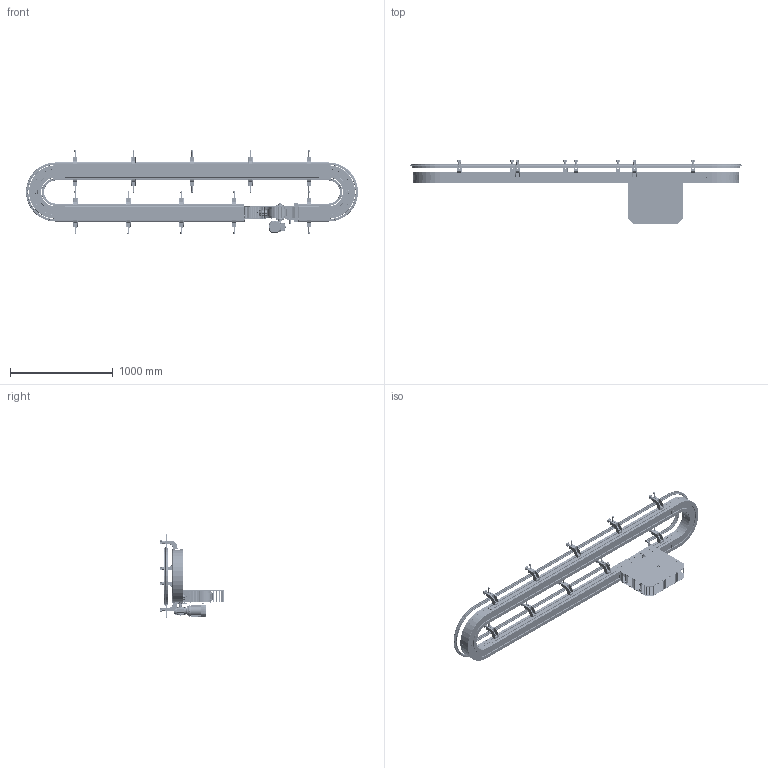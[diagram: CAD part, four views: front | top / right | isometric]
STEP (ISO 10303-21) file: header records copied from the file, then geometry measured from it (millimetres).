
FILE_DESCRIPTION (( 'STEP AP203' ), '1' );
FILE_NAME ('NASTRO_CATENA.step', '2026-06-03T18:55:09', ( 'Utente Windows' ), ( '' ), 'SwSTEP 2.0', 'SolidWorks 2024', '' );
FILE_SCHEMA (( 'CONFIG_CONTROL_DESIGN' ));
Length unit declared in the file: millimetre
Products named in the file (57): 2000.001.011; 084.302.000 DADI ALUSIC 9x9_084.302.015; 2000.450.601_Default<A macchina>; 2000.325.608; 2000.325.455_Default<A macchina>; RONDELLE FASCIA LARGA UNI 6593 INOX_8.4x32 UNI 6593 INOX; 084.802.027; CATENA_ANELLO_180; RONDELLE UNI 6592 INOX_6.4x12.5 UNI 6592 INOX; VITI TE UNI 5739 INOX_M4x10 UNI 5739 INOX; SPONDA_ANELLO_180_Default<A macchina>; NASTRO_CATENA; VITI TE UNI 5739 INOX_M8x16 UNI 5739 INOX; 084.711.002; 2000.450.607; VITI TCEI UNI 5931 INOX_M6x20 UNI 5931 INOX; 2000.450.603; 2000.450.201-1; 2000.450.441; CHIAVETTE_A 8x7x70 UNI 6604-69; K450_2_Default<A macchina>; VITI TE UNI 5739 INOX_M6x12 UNI 5739 INOX; K450_1_Default<A macchina>; 2000.001.402; GRANI A PUNTA CONICA UNI 5927 INOX_M8x14 UNI 5927 INOX; 084.712.002; 2000.450.442; K450_180°_D_P; K450_CEN_ANE_49_P_DX; SUPPORTO_SPONDA; 2000.450.005_Default<A macchina>; VITI TE UNI 5739_M8x20 UNI 5739; 2000.882.750; 2000.450.602; 084.711.004; RONDELLE FASCIA LARGA UNI 6593 INOX_6.4x24 UNI 6593 INOX; RONDELLE UNI 6592 INOX_8.4x18 UNI 6592 INOX; SBPF205; VITI TSEI UNI 5933 INOX_0820UNI5933A2; 2000.450.101-1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
Assembly tree (209 placements, depth 3):
  NASTRO_CATENA
    K450_1_Default<A macchina>
    K450_2_Default<A macchina>
    K450_5_a<A macchina>
    K450_CEN_ANE_49_P_DX
      2000.001.903
      2000.450.101-1
      084.802.027
      2000.450.201-1  x2
      SBPF205  x2
      RUOTE DI TRAINO NS880_NS880T12R25
      084.808.004
      2000.450.603
      2000.325.608
      2000.001.402  x4
      2000.450.604
      2000.450.002  x2
      2000.325.601  x4
      2000.325.602  x2
      2000.450.601_Default<A macchina>  x4
      2000.450.005_Default<A macchina>  x2
      CHIAVETTE_A 8x7x70 UNI 6604-69
      CHIAVETTE_A 8x7x50 UNI 6604-69
      2000.450.605  x4
      2000.450.607  x2
      2000.001.011
      2000.450.602
      RONDELLE FASCIA LARGA UNI 6593 INOX_8.4x32 UNI 6593 INOX
      RONDELLE FASCIA LARGA UNI 6593 INOX_8.4x24 UNI 6593 INOX  x3
      VITI TE UNI 5739 INOX_M8x16 UNI 5739 INOX  x18
      VITI TE UNI 5739 INOX_M8x20 UNI 5739 INOX  x2
      VITI TE UNI 5739 INOX_M6x12 UNI 5739 INOX  x20
      VITI TE UNI 5739 INOX_M4x10 UNI 5739 INOX  x4
      VITI TCEI UNI 5931 INOX_M6x20 UNI 5931 INOX  x2
      RONDELLE UNI 6592 INOX_6.4x12.5 UNI 6592 INOX  x2
      RONDELLE UNI 6592 INOX_8.4x18 UNI 6592 INOX  x6
      GRANI A PUNTA CONICA UNI 5927 INOX_M8x14 UNI 5927 INOX  x16
      084.302.000 DADI ALUSIC 9x9_084.302.015  x8
      RONDELLE FASCIA LARGA UNI 6593 INOX_6.4x24 UNI 6593 INOX  x8
    K450_180°_D_P  x2
      2000.001.402
      2000.450.005_Default<A macchina>
      2000.450.440_2000.450.440
      2000.450.441
      2000.450.442
      2000.325.455_Default<A macchina>
      VITI TSEI UNI 5933 INOX_0620UNI5933A2
      VITI TSEI UNI 5933 INOX_0820UNI5933A2
      084.302.000 DADI ALUSIC 13x13-1_084.302.008
    SPONDA_ANELLO_180_Default<A macchina>
    SUPPORTO_SPONDA  x22
      084.711.004
      084.711.002
      084.711.005
      VITI TE UNI 5739_M8x20 UNI 5739
    084.712.002  x4
    CH05P_DX
    CATENA_ANELLO_180
    2000.882.750
Bounding box: 3231 x 626.5 x 811.12 mm (x, y, z)
Volume: 42895784.8 mm3; surface area: 18389181.8 mm2
Topology: 422 solids, 431 shells, 12815 faces, 31852 edges, 19948 vertices
Faces by surface type: plane 5296, cylinder 5108, cone 1403, torus 497, bspline 363, sphere 148
Entity records: 176134 total; most frequent: CARTESIAN_POINT 49069, DIRECTION 25141, ORIENTED_EDGE 24012, EDGE_CURVE 12017, AXIS2_PLACEMENT_3D 9382, VERTEX_POINT 7545, VECTOR 6377, LINE 6377
